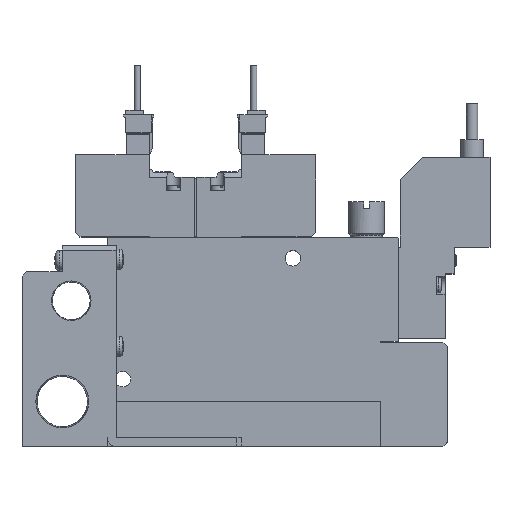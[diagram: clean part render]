
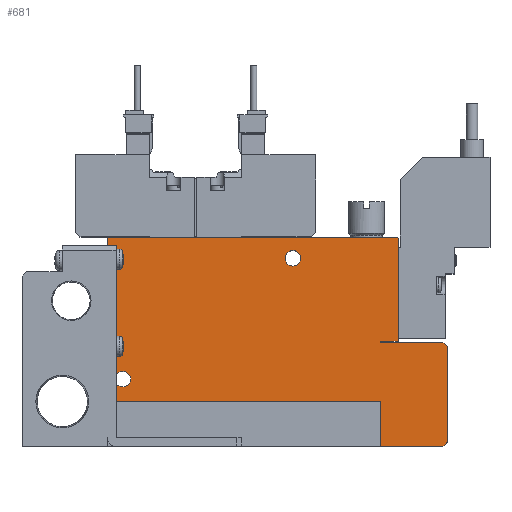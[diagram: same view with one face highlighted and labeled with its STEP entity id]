
A CAD part, top view. The second image highlights one B-rep face of the part: STEP entity #681.
In plain terms, the highlighted planar face has unit normal (0, 0, 1).
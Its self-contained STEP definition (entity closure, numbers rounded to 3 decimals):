
#681=ADVANCED_FACE('',(#1564,#1565,#1566),#1567,.F.);
#1564=FACE_OUTER_BOUND('',#2731,.T.);
#1565=FACE_BOUND('',#2732,.T.);
#1566=FACE_BOUND('',#2733,.T.);
#1567=PLANE('',#2734);
#2731=EDGE_LOOP('',(#5793,#5794,#5795,#5796,#5797,#5798,#5799,#5800,#5801,#5802,#5803,#5804,#5805,#5806));
#2732=EDGE_LOOP('',(#5807));
#2733=EDGE_LOOP('',(#5808));
#2734=AXIS2_PLACEMENT_3D('',#5809,#5810,#5811);
#5793=ORIENTED_EDGE('',*,*,#8051,.T.);
#5794=ORIENTED_EDGE('',*,*,#8052,.F.);
#5795=ORIENTED_EDGE('',*,*,#8053,.F.);
#5796=ORIENTED_EDGE('',*,*,#8054,.T.);
#5797=ORIENTED_EDGE('',*,*,#8055,.T.);
#5798=ORIENTED_EDGE('',*,*,#8038,.T.);
#5799=ORIENTED_EDGE('',*,*,#8056,.T.);
#5800=ORIENTED_EDGE('',*,*,#8057,.T.);
#5801=ORIENTED_EDGE('',*,*,#8058,.T.);
#5802=ORIENTED_EDGE('',*,*,#8044,.T.);
#5803=ORIENTED_EDGE('',*,*,#8059,.T.);
#5804=ORIENTED_EDGE('',*,*,#8060,.T.);
#5805=ORIENTED_EDGE('',*,*,#8061,.T.);
#5806=ORIENTED_EDGE('',*,*,#8011,.T.);
#5807=ORIENTED_EDGE('',*,*,#8062,.F.);
#5808=ORIENTED_EDGE('',*,*,#8063,.F.);
#5809=CARTESIAN_POINT('',(0.0,0.0,5.0));
#5810=DIRECTION('',(0.0,0.0,-1.0));
#5811=DIRECTION('',(0.0,-1.0,0.0));
#8011=EDGE_CURVE('',#9808,#9806,#9809,.T.);
#8038=EDGE_CURVE('',#9858,#9856,#9859,.T.);
#8044=EDGE_CURVE('',#9868,#9866,#9869,.T.);
#8051=EDGE_CURVE('',#9806,#9879,#9880,.T.);
#8052=EDGE_CURVE('',#9881,#9879,#9882,.T.);
#8053=EDGE_CURVE('',#9883,#9881,#9884,.T.);
#8054=EDGE_CURVE('',#9883,#9885,#9886,.T.);
#8055=EDGE_CURVE('',#9885,#9858,#9887,.T.);
#8056=EDGE_CURVE('',#9856,#9888,#9889,.T.);
#8057=EDGE_CURVE('',#9888,#9890,#9891,.T.);
#8058=EDGE_CURVE('',#9890,#9868,#9892,.T.);
#8059=EDGE_CURVE('',#9866,#9893,#9894,.T.);
#8060=EDGE_CURVE('',#9893,#9895,#9896,.T.);
#8061=EDGE_CURVE('',#9895,#9808,#9897,.T.);
#8062=EDGE_CURVE('',#9898,#9898,#9899,.T.);
#8063=EDGE_CURVE('',#9900,#9900,#9901,.T.);
#9806=VERTEX_POINT('',#12761);
#9808=VERTEX_POINT('',#12764);
#9809=LINE('',#12765,#12766);
#9856=VERTEX_POINT('',#12830);
#9858=VERTEX_POINT('',#12833);
#9859=LINE('',#12834,#12835);
#9866=VERTEX_POINT('',#12846);
#9868=VERTEX_POINT('',#12849);
#9869=LINE('',#12850,#12851);
#9879=VERTEX_POINT('',#12866);
#9880=LINE('',#12867,#12868);
#9881=VERTEX_POINT('',#12869);
#9882=LINE('',#12870,#12871);
#9883=VERTEX_POINT('',#12872);
#9884=LINE('',#12873,#12874);
#9885=VERTEX_POINT('',#12875);
#9886=LINE('',#12876,#12877);
#9887=LINE('',#12878,#12879);
#9888=VERTEX_POINT('',#12880);
#9889=LINE('',#12881,#12882);
#9890=VERTEX_POINT('',#12883);
#9891=LINE('',#12884,#12885);
#9892=LINE('',#12886,#12887);
#9893=VERTEX_POINT('',#12888);
#9894=LINE('',#12889,#12890);
#9895=VERTEX_POINT('',#12891);
#9896=LINE('',#12892,#12893);
#9897=LINE('',#12894,#12895);
#9898=VERTEX_POINT('',#12896);
#9899=CIRCLE('',#12897,1.75);
#9900=VERTEX_POINT('',#12898);
#9901=CIRCLE('',#12899,1.75);
#12761=CARTESIAN_POINT('',(0.0,46.4,5.0));
#12764=CARTESIAN_POINT('',(0.2,46.6,5.0));
#12765=CARTESIAN_POINT('',(0.2,46.6,5.0));
#12766=VECTOR('',#15356,1.0);
#12830=CARTESIAN_POINT('',(76.0,22.25,5.0));
#12833=CARTESIAN_POINT('',(76.0,1.0,5.0));
#12834=CARTESIAN_POINT('',(76.0,1.0,5.0));
#12835=VECTOR('',#15399,1.0);
#12846=CARTESIAN_POINT('',(65.0,23.5,5.0));
#12849=CARTESIAN_POINT('',(61.0,23.5,5.0));
#12850=CARTESIAN_POINT('',(61.0,23.5,5.0));
#12851=VECTOR('',#15405,1.0);
#12866=CARTESIAN_POINT('',(0.0,10.1,5.0));
#12867=CARTESIAN_POINT('',(0.0,46.4,5.0));
#12868=VECTOR('',#15414,1.0);
#12869=CARTESIAN_POINT('',(61.1,10.1,5.0));
#12870=CARTESIAN_POINT('',(61.1,10.1,5.0));
#12871=VECTOR('',#15415,1.0);
#12872=CARTESIAN_POINT('',(61.1,0.0,5.0));
#12873=CARTESIAN_POINT('',(61.1,0.0,5.0));
#12874=VECTOR('',#15416,1.0);
#12875=CARTESIAN_POINT('',(75.0,0.0,5.0));
#12876=CARTESIAN_POINT('',(0.0,0.0,5.0));
#12877=VECTOR('',#15417,1.0);
#12878=CARTESIAN_POINT('',(75.0,0.0,5.0));
#12879=VECTOR('',#15418,1.0);
#12880=CARTESIAN_POINT('',(75.0,23.25,5.0));
#12881=CARTESIAN_POINT('',(76.0,22.25,5.0));
#12882=VECTOR('',#15419,1.0);
#12883=CARTESIAN_POINT('',(61.0,23.25,5.0));
#12884=CARTESIAN_POINT('',(75.0,23.25,5.0));
#12885=VECTOR('',#15420,1.0);
#12886=CARTESIAN_POINT('',(61.0,23.25,5.0));
#12887=VECTOR('',#15421,1.0);
#12888=CARTESIAN_POINT('',(65.0,46.4,5.0));
#12889=CARTESIAN_POINT('',(65.0,23.5,5.0));
#12890=VECTOR('',#15422,1.0);
#12891=CARTESIAN_POINT('',(64.8,46.6,5.0));
#12892=CARTESIAN_POINT('',(65.0,46.4,5.0));
#12893=VECTOR('',#15423,1.0);
#12894=CARTESIAN_POINT('',(64.8,46.6,5.0));
#12895=VECTOR('',#15424,1.0);
#12896=CARTESIAN_POINT('',(5.25,15.0,5.0));
#12897=AXIS2_PLACEMENT_3D('',#15425,#15426,#15427);
#12898=CARTESIAN_POINT('',(43.25,42.0,5.0));
#12899=AXIS2_PLACEMENT_3D('',#15428,#15429,#15430);
#15356=DIRECTION('',(-0.707,-0.707,0.0));
#15399=DIRECTION('',(0.0,1.0,0.0));
#15405=DIRECTION('',(1.0,0.,0.0));
#15414=DIRECTION('',(0.0,-1.0,0.0));
#15415=DIRECTION('',(-1.0,0.0,0.0));
#15416=DIRECTION('',(0.0,1.0,0.0));
#15417=DIRECTION('',(1.0,0.0,0.0));
#15418=DIRECTION('',(0.707,0.707,0.0));
#15419=DIRECTION('',(-0.707,0.707,0.0));
#15420=DIRECTION('',(-1.0,0.0,0.0));
#15421=DIRECTION('',(0.0,1.0,0.0));
#15422=DIRECTION('',(0.0,1.0,0.0));
#15423=DIRECTION('',(-0.707,0.707,0.0));
#15424=DIRECTION('',(-1.0,0.0,0.0));
#15425=CARTESIAN_POINT('',(3.5,15.0,5.0));
#15426=DIRECTION('',(0.0,0.0,1.0));
#15427=DIRECTION('',(1.0,0.0,0.0));
#15428=CARTESIAN_POINT('',(41.5,42.0,5.0));
#15429=DIRECTION('',(0.0,0.0,1.0));
#15430=DIRECTION('',(1.0,0.0,0.0));
